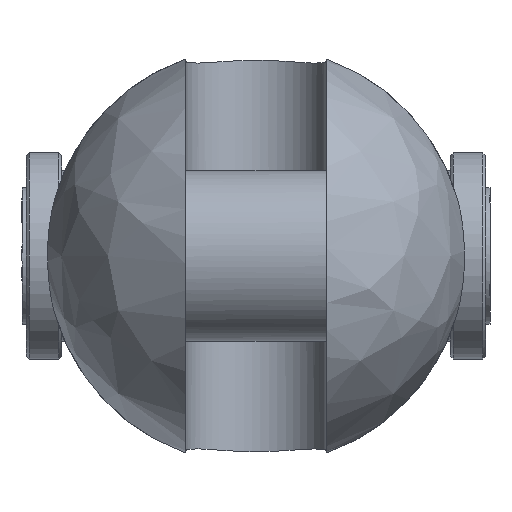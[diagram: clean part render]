
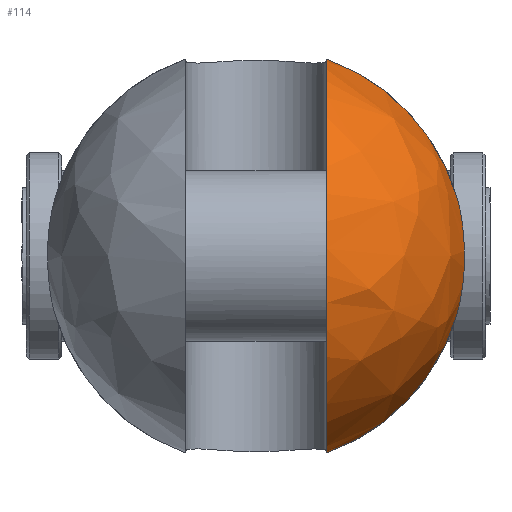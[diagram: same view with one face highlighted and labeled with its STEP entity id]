
A CAD part, left-side view. The second image highlights one B-rep face of the part: STEP entity #114.
In plain terms, the highlighted free-form (B-spline) face has degree [2, 2] with [9, 5] control points.
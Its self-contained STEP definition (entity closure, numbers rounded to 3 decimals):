
#114=ADVANCED_FACE('',(#202),#1535,.T.);
#202=FACE_OUTER_BOUND('',#302,.T.);
#302=EDGE_LOOP('',(#746,#747,#748,#749));
#746=ORIENTED_EDGE('',*,*,#1004,.T.);
#747=ORIENTED_EDGE('',*,*,#1001,.F.);
#748=ORIENTED_EDGE('',*,*,#1021,.T.);
#749=ORIENTED_EDGE('',*,*,#993,.F.);
#993=EDGE_CURVE('',#1425,#1426,#1256,.T.);
#1001=EDGE_CURVE('',#1433,#1434,#1257,.T.);
#1004=EDGE_CURVE('',#1425,#1434,#1259,.T.);
#1021=EDGE_CURVE('',#1433,#1426,#1130,.T.);
#1130=B_SPLINE_CURVE_WITH_KNOTS('',3,(#3620,#3621,#3622,#3623,#3624,#3625,
#3626,#3627,#3628,#3629,#3630,#3631,#3632,#3633),.UNSPECIFIED.,.F.,.F.,
(4,2,2,2,2,2,4),(0.,1.678,6.25,10.821,15.392,
19.964,21.642),.UNSPECIFIED.);
#1256=(
BOUNDED_CURVE()
B_SPLINE_CURVE(2,(#3470,#3471,#3472),.UNSPECIFIED.,.F.,.F.)
B_SPLINE_CURVE_WITH_KNOTS((3,3),(0.,33.281),.UNSPECIFIED.)
CURVE()
GEOMETRIC_REPRESENTATION_ITEM()
RATIONAL_B_SPLINE_CURVE((1.,0.892,1.))
REPRESENTATION_ITEM('')
);
#1257=(
BOUNDED_CURVE()
B_SPLINE_CURVE(2,(#3527,#3528,#3529),.UNSPECIFIED.,.F.,.F.)
B_SPLINE_CURVE_WITH_KNOTS((3,3),(0.,33.281),.UNSPECIFIED.)
CURVE()
GEOMETRIC_REPRESENTATION_ITEM()
RATIONAL_B_SPLINE_CURVE((1.,0.892,1.))
REPRESENTATION_ITEM('')
);
#1259=(
BOUNDED_CURVE()
B_SPLINE_CURVE(2,(#3535,#3536,#3537,#3538,#3539),.UNSPECIFIED.,.F.,.F.)
B_SPLINE_CURVE_WITH_KNOTS((3,2,3),(-104.962,-52.481,
0.),.UNSPECIFIED.)
CURVE()
GEOMETRIC_REPRESENTATION_ITEM()
RATIONAL_B_SPLINE_CURVE((1.,0.707,1.,0.707,1.))
REPRESENTATION_ITEM('')
);
#1425=VERTEX_POINT('',#3302);
#1426=VERTEX_POINT('',#3303);
#1433=VERTEX_POINT('',#3310);
#1434=VERTEX_POINT('',#3311);
#1535=(
BOUNDED_SURFACE()
B_SPLINE_SURFACE(2,2,((#3174,#3175,#3176,#3177,#3178),(#3179,#3180,#3181,
#3182,#3183),(#3184,#3185,#3186,#3187,#3188),(#3189,#3190,#3191,#3192,#3193),
(#3194,#3195,#3196,#3197,#3198),(#3199,#3200,#3201,#3202,#3203),(#3204,
#3205,#3206,#3207,#3208),(#3209,#3210,#3211,#3212,#3213),(#3214,#3215,#3216,
#3217,#3218)),.UNSPECIFIED.,.T.,.F.,.F.)
B_SPLINE_SURFACE_WITH_KNOTS((3,2,2,2,3),(3,2,3),(0.,55.763,111.527,
167.29,223.053),(0.,55.763,111.527),
 .UNSPECIFIED.)
GEOMETRIC_REPRESENTATION_ITEM()
RATIONAL_B_SPLINE_SURFACE(((1.,0.707,1.,0.707,1.),
(0.707,0.5,0.707,0.5,0.707),(1.,0.707,
1.,0.707,1.),(0.707,0.5,0.707,0.5,0.707),
(1.,0.707,1.,0.707,1.),(0.707,0.5,0.707,
0.5,0.707),(1.,0.707,1.,0.707,1.),(0.707,
0.5,0.707,0.5,0.707),(1.,0.707,1.,0.707,
1.)))
REPRESENTATION_ITEM('')
SURFACE()
);
#3174=CARTESIAN_POINT('',(-51.,0.,0.));
#3175=CARTESIAN_POINT('',(-51.,35.5,0.));
#3176=CARTESIAN_POINT('',(-15.5,35.5,0.));
#3177=CARTESIAN_POINT('',(20.,35.5,0.));
#3178=CARTESIAN_POINT('',(20.,0.,0.));
#3179=CARTESIAN_POINT('',(-51.,0.,0.));
#3180=CARTESIAN_POINT('',(-51.,35.5,35.5));
#3181=CARTESIAN_POINT('',(-15.5,35.5,35.5));
#3182=CARTESIAN_POINT('',(20.,35.5,35.5));
#3183=CARTESIAN_POINT('',(20.,0.,0.));
#3184=CARTESIAN_POINT('',(-51.,0.,0.));
#3185=CARTESIAN_POINT('',(-51.,0.,35.5));
#3186=CARTESIAN_POINT('',(-15.5,0.,35.5));
#3187=CARTESIAN_POINT('',(20.,0.,35.5));
#3188=CARTESIAN_POINT('',(20.,0.,0.));
#3189=CARTESIAN_POINT('',(-51.,0.,0.));
#3190=CARTESIAN_POINT('',(-51.,-35.5,35.5));
#3191=CARTESIAN_POINT('',(-15.5,-35.5,35.5));
#3192=CARTESIAN_POINT('',(20.,-35.5,35.5));
#3193=CARTESIAN_POINT('',(20.,0.,0.));
#3194=CARTESIAN_POINT('',(-51.,0.,0.));
#3195=CARTESIAN_POINT('',(-51.,-35.5,0.));
#3196=CARTESIAN_POINT('',(-15.5,-35.5,0.));
#3197=CARTESIAN_POINT('',(20.,-35.5,0.));
#3198=CARTESIAN_POINT('',(20.,0.,0.));
#3199=CARTESIAN_POINT('',(-51.,0.,0.));
#3200=CARTESIAN_POINT('',(-51.,-35.5,-35.5));
#3201=CARTESIAN_POINT('',(-15.5,-35.5,-35.5));
#3202=CARTESIAN_POINT('',(20.,-35.5,-35.5));
#3203=CARTESIAN_POINT('',(20.,0.,0.));
#3204=CARTESIAN_POINT('',(-51.,0.,0.));
#3205=CARTESIAN_POINT('',(-51.,0.,-35.5));
#3206=CARTESIAN_POINT('',(-15.5,0.,-35.5));
#3207=CARTESIAN_POINT('',(20.,0.,-35.5));
#3208=CARTESIAN_POINT('',(20.,0.,0.));
#3209=CARTESIAN_POINT('',(-51.,0.,0.));
#3210=CARTESIAN_POINT('',(-51.,35.5,-35.5));
#3211=CARTESIAN_POINT('',(-15.5,35.5,-35.5));
#3212=CARTESIAN_POINT('',(20.,35.5,-35.5));
#3213=CARTESIAN_POINT('',(20.,0.,0.));
#3214=CARTESIAN_POINT('',(-51.,0.,0.));
#3215=CARTESIAN_POINT('',(-51.,35.5,0.));
#3216=CARTESIAN_POINT('',(-15.5,35.5,0.));
#3217=CARTESIAN_POINT('',(20.,35.5,0.));
#3218=CARTESIAN_POINT('',(20.,0.,0.));
#3302=CARTESIAN_POINT('',(-15.5,-12.,33.41));
#3303=CARTESIAN_POINT('',(-15.5,-34.033,10.1));
#3310=CARTESIAN_POINT('',(-15.5,-34.033,-10.1));
#3311=CARTESIAN_POINT('',(-15.5,-12.,-33.41));
#3470=CARTESIAN_POINT('',(-15.5,-12.,33.41));
#3471=CARTESIAN_POINT('',(-15.5,-28.919,27.334));
#3472=CARTESIAN_POINT('',(-15.5,-34.033,10.1));
#3527=CARTESIAN_POINT('',(-15.5,-34.033,-10.1));
#3528=CARTESIAN_POINT('',(-15.5,-28.919,-27.334));
#3529=CARTESIAN_POINT('',(-15.5,-12.,-33.41));
#3535=CARTESIAN_POINT('',(-15.5,-12.,33.41));
#3536=CARTESIAN_POINT('',(-48.91,-12.,33.41));
#3537=CARTESIAN_POINT('',(-48.91,-12.,0.));
#3538=CARTESIAN_POINT('',(-48.91,-12.,-33.41));
#3539=CARTESIAN_POINT('',(-15.5,-12.,-33.41));
#3620=CARTESIAN_POINT('',(-15.5,-34.033,-10.1));
#3621=CARTESIAN_POINT('',(-15.799,-34.169,-9.64));
#3622=CARTESIAN_POINT('',(-16.079,-34.296,-9.166));
#3623=CARTESIAN_POINT('',(-17.043,-34.73,-7.351));
#3624=CARTESIAN_POINT('',(-17.591,-34.973,-5.924));
#3625=CARTESIAN_POINT('',(-18.319,-35.294,-2.989));
#3626=CARTESIAN_POINT('',(-18.5,-35.373,-1.481));
#3627=CARTESIAN_POINT('',(-18.5,-35.373,1.481));
#3628=CARTESIAN_POINT('',(-18.319,-35.294,2.989));
#3629=CARTESIAN_POINT('',(-17.591,-34.973,5.924));
#3630=CARTESIAN_POINT('',(-17.043,-34.73,7.351));
#3631=CARTESIAN_POINT('',(-16.079,-34.296,9.166));
#3632=CARTESIAN_POINT('',(-15.799,-34.169,9.64));
#3633=CARTESIAN_POINT('',(-15.5,-34.033,10.1));
